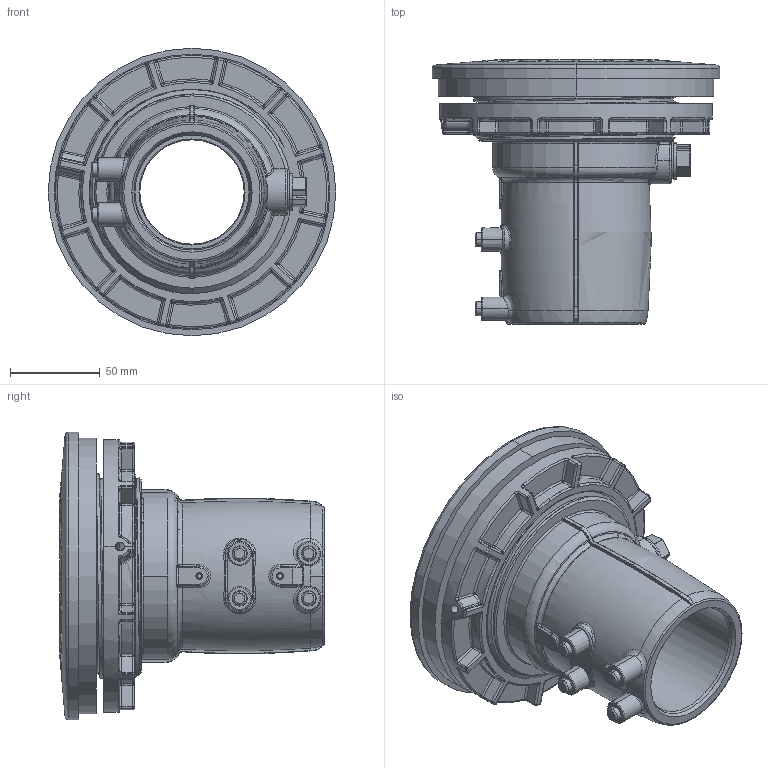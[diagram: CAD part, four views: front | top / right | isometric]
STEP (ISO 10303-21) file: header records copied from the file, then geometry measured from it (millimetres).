
FILE_DESCRIPTION (( 'STEP AP203' ), '1' );
FILE_NAME ('KP_TM75-63SC04-L.STEP', '2012-01-18T12:04:56', ( '' ), ( '' ), 'SwSTEP 2.0', 'SolidWorks 2012', '' );
FILE_SCHEMA (( 'CONFIG_CONTROL_DESIGN' ));
Length unit declared in the file: millimetre
Products named in the file (1): KP_TM75-63SC04-L
Bounding box: 160 x 147.06 x 160 mm (x, y, z)
Volume: 689711.5 mm3; surface area: 188551.8 mm2
Topology: 6 solids, 17 shells, 1650 faces, 4015 edges, 2316 vertices
Faces by surface type: bspline 510, cylinder 370, plane 340, torus 215, cone 119, sphere 96
Entity records: 69859 total; most frequent: CARTESIAN_POINT 35951, ORIENTED_EDGE 7746, DIRECTION 6179, EDGE_CURVE 3873, AXIS2_PLACEMENT_3D 2553, VERTEX_POINT 2314, EDGE_LOOP 1721, ADVANCED_FACE 1650
